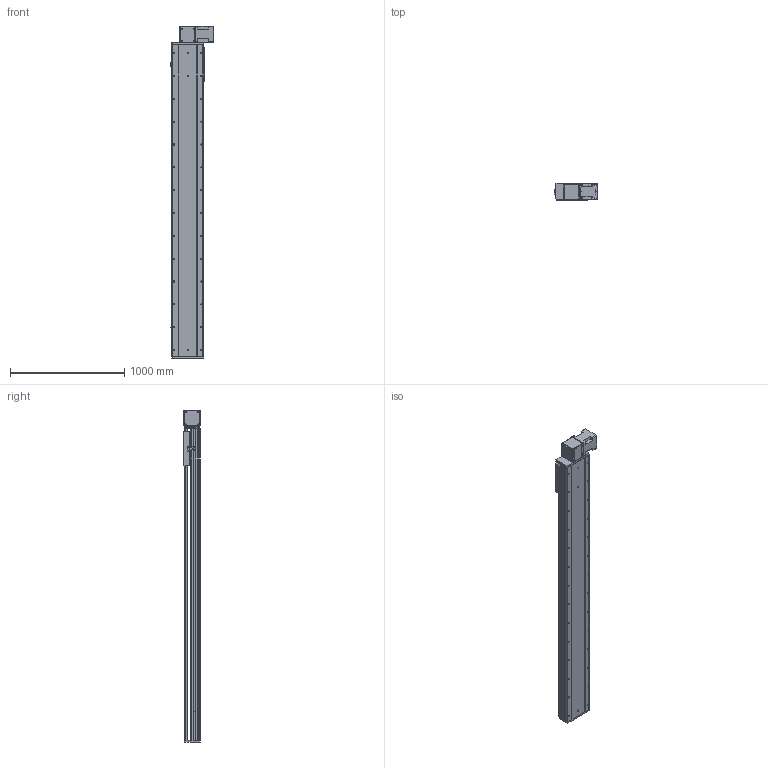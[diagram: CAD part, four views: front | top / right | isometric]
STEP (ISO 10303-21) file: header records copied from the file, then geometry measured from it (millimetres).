
FILE_DESCRIPTION (( 'STEP AP214' ), '1' );
FILE_NAME ('RTB28S-XX-2300-BL-M100-XX-C4.STEP', '2025-12-22T02:30:46', ( '' ), ( '' ), 'SwSTEP 2.0', 'SolidWorks 2018', '' );
FILE_SCHEMA (( 'AUTOMOTIVE_DESIGN' ));
Length unit declared in the file: millimetre
Products named in the file (4): RTB28S-GY-004^RTB28S-XX-XX-BL-M100-XX-C4; RTB28S-XX-2300-BL-M100-XX-C4; RTB28S-GY-008^RTB28S-XX-XX-BL-M100-XX-C4; RTB28S-GY-011^RTB28S-XX-XX-BL-M100-XX-C4
Assembly tree (3 placements, depth 2):
  RTB28S-XX-2300-BL-M100-XX-C4
    RTB28S-GY-011^RTB28S-XX-XX-BL-M100-XX-C4
    RTB28S-GY-004^RTB28S-XX-XX-BL-M100-XX-C4
    RTB28S-GY-008^RTB28S-XX-XX-BL-M100-XX-C4
Bounding box: 380.7 x 145 x 2907 mm (x, y, z)
Volume: 50092584.3 mm3; surface area: 4707486.9 mm2
Topology: 3 solids, 4 shells, 848 faces, 2268 edges, 1448 vertices
Faces by surface type: cylinder 407, plane 357, cone 80, torus 4
Entity records: 32429 total; most frequent: CARTESIAN_POINT 5902, DIRECTION 4818, ORIENTED_EDGE 4472, EDGE_CURVE 2236, AXIS2_PLACEMENT_3D 1764, VERTEX_POINT 1448, LINE 1290, VECTOR 1290
